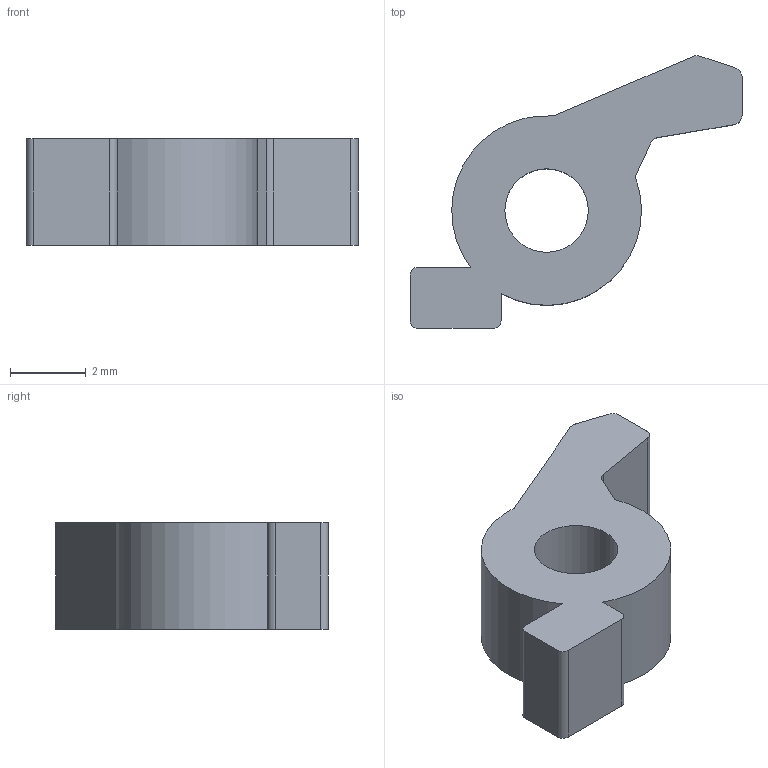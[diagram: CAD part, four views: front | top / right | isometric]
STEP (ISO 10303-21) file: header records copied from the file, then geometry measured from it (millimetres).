
FILE_DESCRIPTION(('Open CASCADE Model'),'2;1');
FILE_NAME('CH_pawl','2026-11-05T16:12:29',('Author'),('Open CASCADE'), 'Open CASCADE STEP processor 7.9','build123d','Unknown');
FILE_SCHEMA(('AUTOMOTIVE_DESIGN { 1 0 10303 214 1 1 1 1 }'));
Length unit declared in the file: millimetre
Products named in the file (2): CH_pawl
Assembly tree (1 placements, depth 2):
  CH_pawl
    CH_pawl
Bounding box: 8.75 x 7.18 x 2.8 mm (x, y, z)
Volume: 74.1 mm3; surface area: 151.2 mm2
Topology: 1 solids, 1 shells, 22 faces, 60 edges, 40 vertices
Faces by surface type: cylinder 11, plane 11
Full cylindrical faces by diameter (mm): 2.2 x1
Entity records: 1572 total; most frequent: CARTESIAN_POINT 304, DIRECTION 240, LINE 136, VECTOR 136, ORIENTED_EDGE 120, PCURVE 120, DEFINITIONAL_REPRESENTATION 120, EDGE_CURVE 60
